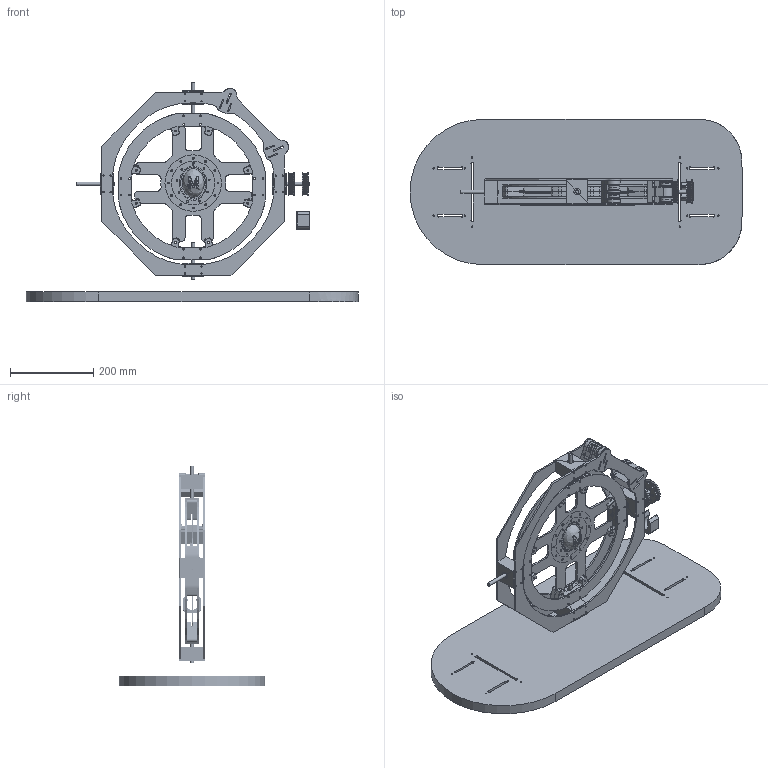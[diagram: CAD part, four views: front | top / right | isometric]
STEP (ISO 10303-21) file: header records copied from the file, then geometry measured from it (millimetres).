
FILE_DESCRIPTION(/* description */ (''),/* implementation_level */ '2;1');
FILE_NAME(/* name */ 'Roto Concept 1 - DK.step',/* time_stamp */ '2025-05-14T15:35:30+01:00',/* author */ (''),/* organization */ (''),/* preprocessor_version */ 'ST-DEVELOPER v20.1',/* originating_system */ 'Autodesk Translation Framework v14.4.0.0',/* authorisation */ '');
FILE_SCHEMA (('AUTOMOTIVE_DESIGN { 1 0 10303 214 3 1 1 }'));
Length unit declared in the file: millimetre
Products named in the file (24): Roto Concept 1 - DK; Part 3; 5972K501_Ball Bearing; Idler(Mirror); Idler; 5972K501_Ball Bearing_1; Idler(Mirror) (1); 5972K501_Ball Bearing_2; Outer Ring; Outer Ring Bering Boss; Idler - tensioner; Carl - CNC Base; Inner Ring - V1; Component1; Component1_1; Component1_2; Component1_3; Shaft 1 - drive to outer ring; Shaft 2 - Outer ring to Inner ring drive; Part 3_1; Mould Mount; M - Egg; Component1_4; Motor Mount
Assembly tree (27 placements, depth 4):
  Roto Concept 1 - DK
    Part 3
    Idler  x2
    5972K501_Ball Bearing
    Idler(Mirror)
    5972K501_Ball Bearing_1
    Idler(Mirror) (1)
    5972K501_Ball Bearing_2
    Outer Ring
    Outer Ring Bering Boss  x4
    Idler - tensioner
    Carl - CNC Base
      Inner Ring - V1
        Component1
        Component1_1
        Component1_2
        Component1_3
    Shaft 1 - drive to outer ring
    Shaft 2 - Outer ring to Inner ring drive
    Part 3_1
    Mould Mount
      M - Egg
        Component1_4
    Motor Mount
Bounding box: 800 x 350 x 529 mm (x, y, z)
Volume: 7993554.7 mm3; surface area: 1363522.6 mm2
Topology: 81 solids, 81 shells, 4114 faces, 11550 edges, 7595 vertices
Faces by surface type: cylinder 2154, plane 1393, cone 364, torus 122, bspline 60, sphere 21
Full cylindrical faces by diameter (mm): 2.7 x44, 3 x9, 3.1 x32, 3.2 x18, 3.3 x12, 3.308 x4, 4.2 x130, 6.5 x9, 7.9 x4, 8 x15, 9 x5, 10.756 x12, 11.374 x6, 17.178 x6, 17.475 x6, 18.092 x12, 19.244 x6, 21.9 x6, 22 x3, 26 x4, 57 x4, 105 x1, 120 x1, 136 x1
Entity records: 132103 total; most frequent: CARTESIAN_POINT 37311, ORIENTED_EDGE 20154, DIRECTION 19492, EDGE_CURVE 10077, AXIS2_PLACEMENT_3D 7571, VERTEX_POINT 6647, LINE 4350, VECTOR 4350
